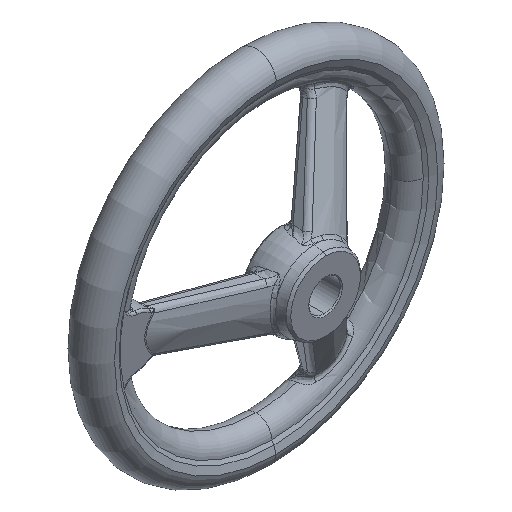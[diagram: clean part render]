
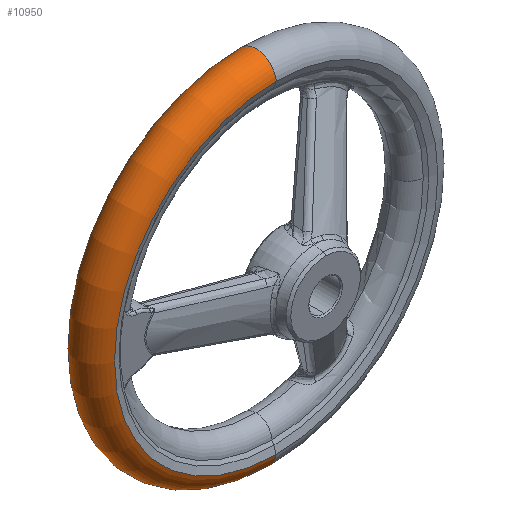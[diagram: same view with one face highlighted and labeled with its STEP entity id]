
A CAD part, isometric view. The second image highlights one B-rep face of the part: STEP entity #10950.
In plain terms, the highlighted toroidal (fillet/blend) face has major radius 70.938 mm and minor radius 9.062 mm.
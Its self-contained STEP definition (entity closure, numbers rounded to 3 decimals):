
#1446 = VERTEX_POINT ( 'NONE', #12450 ) ;
#1566 = EDGE_CURVE ( 'NONE', #16108, #2355, #12514, .T. ) ;
#1568 = EDGE_CURVE ( 'NONE', #16082, #1446, #12516, .T. ) ;
#2355 = VERTEX_POINT ( 'NONE', #14828 ) ;
#2356 = EDGE_CURVE ( 'NONE', #2355, #1446, #14823, .T. ) ;
#8771 = CIRCLE ( 'NONE', #8806, 72. ) ;
#8803 = DIRECTION ( 'NONE',  ( 0., 0., -1. ) ) ;
#8804 = DIRECTION ( 'NONE',  ( 0., -1., 0. ) ) ;
#8805 = CARTESIAN_POINT ( 'NONE',  ( 0., 40., 0. ) ) ;
#8806 = AXIS2_PLACEMENT_3D ( 'NONE', #8805, #8804, #8803 ) ;
#8808 = CARTESIAN_POINT ( 'NONE',  ( 0., 40., -72. ) ) ;
#8859 = CARTESIAN_POINT ( 'NONE',  ( 0., 40., 72. ) ) ;
#10930 = ORIENTED_EDGE ( 'NONE', *, *, #1566, .F. ) ;
#10941 = EDGE_LOOP ( 'NONE', ( #10930, #10947, #10952, #10954 ) ) ;
#10947 = ORIENTED_EDGE ( 'NONE', *, *, #16071, .T. ) ;
#10950 = ADVANCED_FACE ( 'NONE', ( #20019 ), #20052, .T. ) ;
#10952 = ORIENTED_EDGE ( 'NONE', *, *, #1568, .T. ) ;
#10954 = ORIENTED_EDGE ( 'NONE', *, *, #2356, .F. ) ;
#12450 = CARTESIAN_POINT ( 'NONE',  ( 0., 22., -72. ) ) ;
#12514 = CIRCLE ( 'NONE', #12611, 9.063 ) ;
#12516 = CIRCLE ( 'NONE', #12605, 9.063 ) ;
#12596 = DIRECTION ( 'NONE',  ( 0., 0., 1. ) ) ;
#12598 = DIRECTION ( 'NONE',  ( -1., 0., 0. ) ) ;
#12605 = AXIS2_PLACEMENT_3D ( 'NONE', #12621, #12598, #12596 ) ;
#12607 = DIRECTION ( 'NONE',  ( 0., 0., -1. ) ) ;
#12609 = DIRECTION ( 'NONE',  ( 1., 0., 0. ) ) ;
#12611 = AXIS2_PLACEMENT_3D ( 'NONE', #12619, #12609, #12607 ) ;
#12619 = CARTESIAN_POINT ( 'NONE',  ( 0., 31., 70.938 ) ) ;
#12621 = CARTESIAN_POINT ( 'NONE',  ( 0., 31., -70.938 ) ) ;
#14817 = DIRECTION ( 'NONE',  ( 0., 0., -1. ) ) ;
#14818 = DIRECTION ( 'NONE',  ( 0., -1., 0. ) ) ;
#14819 = CARTESIAN_POINT ( 'NONE',  ( 0., 22., 0. ) ) ;
#14820 = AXIS2_PLACEMENT_3D ( 'NONE', #14819, #14818, #14817 ) ;
#14823 = CIRCLE ( 'NONE', #14820, 72. ) ;
#14828 = CARTESIAN_POINT ( 'NONE',  ( 0., 22., 72. ) ) ;
#16071 = EDGE_CURVE ( 'NONE', #16108, #16082, #8771, .T. ) ;
#16082 = VERTEX_POINT ( 'NONE', #8808 ) ;
#16108 = VERTEX_POINT ( 'NONE', #8859 ) ;
#20019 = FACE_OUTER_BOUND ( 'NONE', #10941, .T. ) ;
#20025 = DIRECTION ( 'NONE',  ( 0., 0., -1. ) ) ;
#20026 = DIRECTION ( 'NONE',  ( 0., -1., 0. ) ) ;
#20037 = AXIS2_PLACEMENT_3D ( 'NONE', #20038, #20026, #20025 ) ;
#20038 = CARTESIAN_POINT ( 'NONE',  ( 0., 31., 0. ) ) ;
#20052 = TOROIDAL_SURFACE ( 'NONE', #20037, 70.938, 9.063 ) ;
